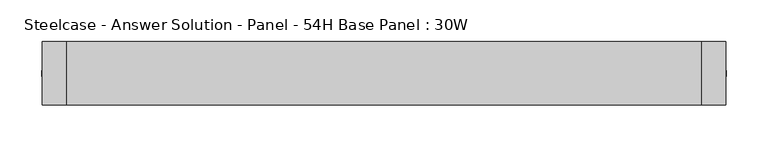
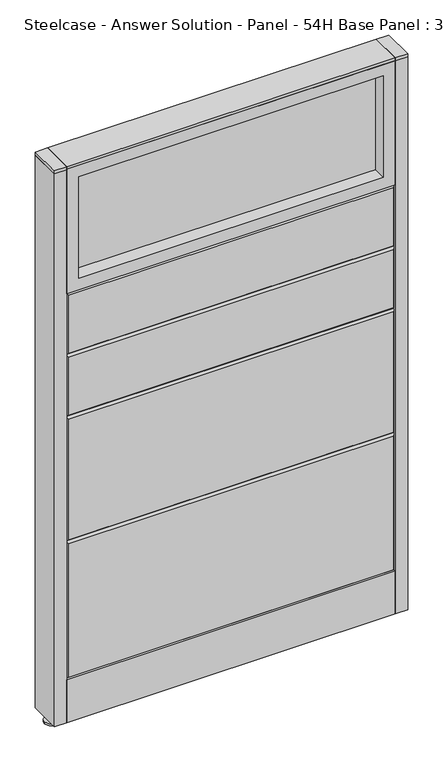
"""IFC4 building model written with IfcOpenShell, lengths in millimetres: furniture geometry, Steelcase - Answer Solution - Panel - 54H Base Panel : 30W."""

from ifc_helpers import new_model, si_unit, point, frame, frame_2d, origin, place, context, project, spatial, polyline, circle_curve, trimmed, segment, composite_curve, outline, extrude, faceted_brep, source, transform, mapped, element, save


def steelcase_answer_solution_panel_54h_base_panel_30w_df9601b4(model_context):
    return source(origin(), model_context, "Body", "SolidModel", [
        extrude(outline(composite_curve([segment(trimmed(circle_curve(frame_2d((395.224, 0.0320214)), 5.08), [point((400.304, 0.0320214))], [point((390.144, 0.0320214))], False, "CARTESIAN"), True, "CONTINUOUS"), segment(trimmed(circle_curve(frame_2d((395.224, 0.0320214)), 5.08), [point((390.144, 0.0320214))], [point((400.304, 0.0320214))], False, "CARTESIAN"), True, "CONTINUOUS")], self_intersect=False)), frame((0.0, 0.0, 5.0799671), z_axis=(0.0, 0.0, 1.0), x_axis=(1.0, 0.0, 0.0)), (0.0, 0.0, 1.0), 10.414),
        extrude(outline(composite_curve([segment(trimmed(circle_curve(frame_2d((395.224, 0.0320214)), 15.24), [point((410.464, 0.0320214))], [point((379.984, 0.0320214))], False, "CARTESIAN"), True, "CONTINUOUS"), segment(trimmed(circle_curve(frame_2d((395.224, 0.0320214)), 15.24), [point((379.984, 0.0320214))], [point((410.464, 0.0320214))], False, "CARTESIAN"), True, "CONTINUOUS")], self_intersect=False)), frame((0.0, 0.0, -3.29e-05), z_axis=(0.0, 0.0, 1.0), x_axis=(1.0, 0.0, 0.0)), (0.0, 0.0, 1.0), 5.08),
        extrude(outline(polyline([(409.575, 38.1320408), (409.575, -38.0679592), (381.0, -38.0679592), (381.0, 38.1320408), (409.575, 38.1320408)])), frame((0.0, 0.0, 1370.6348), z_axis=(0.0, 0.0, 1.0), x_axis=(1.0, 0.0, 0.0)), (0.0, 0.0, 1.0), 7.3151671),
        extrude(outline(polyline([(409.575, 38.1320408), (409.575, -38.0679592), (381.0, -38.0679592), (381.0, 38.1320408), (409.575, 38.1320408)])), frame((0.0, 0.0, 15.4939671), z_axis=(0.0, 0.0, 1.0), x_axis=(1.0, 0.0, 0.0)), (0.0, 0.0, 1.0), 1355.1408329),
        extrude(outline(composite_curve([segment(trimmed(circle_curve(frame_2d((-395.224, 0.0320214)), 5.08), [point((-400.304, 0.0320214))], [point((-390.144, 0.0320214))], False, "CARTESIAN"), True, "CONTINUOUS"), segment(trimmed(circle_curve(frame_2d((-395.224, 0.0320214)), 5.08), [point((-390.144, 0.0320214))], [point((-400.304, 0.0320214))], False, "CARTESIAN"), True, "CONTINUOUS")], self_intersect=False)), frame((0.0, 0.0, 5.0799671), z_axis=(0.0, 0.0, 1.0), x_axis=(1.0, 0.0, 0.0)), (0.0, 0.0, 1.0), 10.414),
        extrude(outline(composite_curve([segment(trimmed(circle_curve(frame_2d((-395.224, 0.0320214)), 15.24), [point((-410.464, 0.0320214))], [point((-379.984, 0.0320214))], False, "CARTESIAN"), True, "CONTINUOUS"), segment(trimmed(circle_curve(frame_2d((-395.224, 0.0320214)), 15.24), [point((-379.984, 0.0320214))], [point((-410.464, 0.0320214))], False, "CARTESIAN"), True, "CONTINUOUS")], self_intersect=False)), frame((0.0, 0.0, -3.29e-05), z_axis=(0.0, 0.0, 1.0), x_axis=(1.0, 0.0, 0.0)), (0.0, 0.0, 1.0), 5.08),
        extrude(outline(polyline([(-409.575, 38.1320408), (-381.0, 38.1320408), (-381.0, -38.0679592), (-409.575, -38.0679592), (-409.575, 38.1320408)])), frame((0.0, 0.0, 1370.6348), z_axis=(0.0, 0.0, 1.0), x_axis=(1.0, 0.0, 0.0)), (0.0, 0.0, 1.0), 7.3151671),
        extrude(outline(polyline([(-409.575, 38.1320408), (-381.0, 38.1320408), (-381.0, -38.0679592), (-409.575, -38.0679592), (-409.575, 38.1320408)])), frame((0.0, 0.0, 15.4939671), z_axis=(0.0, 0.0, 1.0), x_axis=(1.0, 0.0, 0.0)), (0.0, 0.0, 1.0), 1355.1408329),
        extrude(outline(polyline([(-353.06, 6.346049), (353.06, 6.346049), (353.06, -6.353951), (-353.06, -6.353951), (-353.06, 6.346049)])), frame((0.0, 0.0, 1094.74), z_axis=(0.0, 0.0, 1.0), x_axis=(1.0, 0.0, 0.0)), (0.0, 0.0, 1.0), 248.92),
        extrude(outline(polyline([(1371.6, -381.0), (1066.8, -381.0), (1066.8, 381.0), (1371.6, 381.0), (1371.6, -381.0)]), holes=[polyline([(1343.66, -353.06), (1343.66, 353.06), (1094.74, 353.06), (1094.74, -353.06), (1343.66, -353.06)])]), frame((0.0, -38.103951, 0.0), z_axis=(0.0, 1.0, 0.0), x_axis=(0.0, 0.0, 1.0)), (0.0, 0.0, 1.0), 76.2),
        faceted_brep([(-376.174, 38.1635011, 1061.974), (376.174, 38.1635011, 1061.974), (376.174, 38.1635011, 919.226), (-376.174, 38.1635011, 919.226), (-381.0, 33.3375011, 1066.8), (-381.0, 33.3375011, 914.4), (381.0, 33.3375011, 914.4), (381.0, 33.3375011, 1066.8)], [[[0, 1, 2, 3]], [[4, 5, 6, 7]], [[4, 7, 1, 0]], [[7, 6, 2, 1]], [[6, 5, 3, 2]], [[5, 4, 0, 3]]]),
        faceted_brep([(-376.174, 38.1635011, 909.574), (376.174, 38.1635011, 909.574), (376.174, 38.1635011, 766.826), (-376.174, 38.1635011, 766.826), (-381.0, 33.3375011, 914.4), (-381.0, 33.3375011, 762.0), (381.0, 33.3375011, 762.0), (381.0, 33.3375011, 914.4)], [[[0, 1, 2, 3]], [[4, 5, 6, 7]], [[4, 7, 1, 0]], [[7, 6, 2, 1]], [[6, 5, 3, 2]], [[5, 4, 0, 3]]]),
        faceted_brep([(-376.174, 38.1635011, 757.174), (376.174, 38.1635011, 757.174), (376.174, 38.1635011, 462.026), (-376.174, 38.1635011, 462.026), (-381.0, 33.3375011, 762.0), (-381.0, 33.3375011, 457.2), (381.0, 33.3375011, 457.2), (381.0, 33.3375011, 762.0)], [[[0, 1, 2, 3]], [[4, 5, 6, 7]], [[4, 7, 1, 0]], [[7, 6, 2, 1]], [[6, 5, 3, 2]], [[5, 4, 0, 3]]]),
        faceted_brep([(-376.174, 38.1635011, 452.374), (376.174, 38.1635011, 452.374), (376.174, 38.1635011, 125.476), (-376.174, 38.1635011, 125.476), (-381.0, 33.3375011, 457.2), (-381.0, 33.3375011, 120.65), (381.0, 33.3375011, 120.65), (381.0, 33.3375011, 457.2)], [[[0, 1, 2, 3]], [[4, 5, 6, 7]], [[4, 7, 1, 0]], [[7, 6, 2, 1]], [[6, 5, 3, 2]], [[5, 4, 0, 3]]]),
        extrude(outline(polyline([(353.06, -6.346049), (-353.06, -6.346049), (-353.06, 6.353951), (353.06, 6.353951), (353.06, -6.346049)])), frame((0.0, 0.0, 1094.74), z_axis=(0.0, 0.0, 1.0), x_axis=(1.0, 0.0, 0.0)), (0.0, 0.0, 1.0), 248.92),
        extrude(outline(polyline([(1371.6, 381.0), (1371.6, -381.0), (1066.8, -381.0), (1066.8, 381.0), (1371.6, 381.0)]), holes=[polyline([(1343.66, 353.06), (1094.74, 353.06), (1094.74, -353.06), (1343.66, -353.06), (1343.66, 353.06)])]), frame((0.0, -38.096049, 0.0), z_axis=(0.0, 1.0, 0.0), x_axis=(0.0, 0.0, 1.0)), (0.0, 0.0, 1.0), 76.2),
        faceted_brep([(376.174, -38.1635011, 1061.974), (-376.174, -38.1635011, 1061.974), (-376.174, -38.1635011, 919.226), (376.174, -38.1635011, 919.226), (381.0, -33.3375011, 1066.8), (381.0, -33.3375011, 914.4), (-381.0, -33.3375011, 914.4), (-381.0, -33.3375011, 1066.8)], [[[0, 1, 2, 3]], [[4, 5, 6, 7]], [[4, 7, 1, 0]], [[7, 6, 2, 1]], [[6, 5, 3, 2]], [[5, 4, 0, 3]]]),
        faceted_brep([(376.174, -38.1635011, 909.574), (-376.174, -38.1635011, 909.574), (-376.174, -38.1635011, 766.826), (376.174, -38.1635011, 766.826), (381.0, -33.3375011, 914.4), (381.0, -33.3375011, 762.0), (-381.0, -33.3375011, 762.0), (-381.0, -33.3375011, 914.4)], [[[0, 1, 2, 3]], [[4, 5, 6, 7]], [[4, 7, 1, 0]], [[7, 6, 2, 1]], [[6, 5, 3, 2]], [[5, 4, 0, 3]]]),
        faceted_brep([(376.174, -38.1635011, 757.174), (-376.174, -38.1635011, 757.174), (-376.174, -38.1635011, 462.026), (376.174, -38.1635011, 462.026), (381.0, -33.3375011, 762.0), (381.0, -33.3375011, 457.2), (-381.0, -33.3375011, 457.2), (-381.0, -33.3375011, 762.0)], [[[0, 1, 2, 3]], [[4, 5, 6, 7]], [[4, 7, 1, 0]], [[7, 6, 2, 1]], [[6, 5, 3, 2]], [[5, 4, 0, 3]]]),
        faceted_brep([(376.174, -38.1635011, 452.374), (-376.174, -38.1635011, 452.374), (-376.174, -38.1635011, 125.476), (376.174, -38.1635011, 125.476), (381.0, -33.3375011, 457.2), (381.0, -33.3375011, 120.65), (-381.0, -33.3375011, 120.65), (-381.0, -33.3375011, 457.2)], [[[0, 1, 2, 3]], [[4, 5, 6, 7]], [[4, 7, 1, 0]], [[7, 6, 2, 1]], [[6, 5, 3, 2]], [[5, 4, 0, 3]]]),
        extrude(outline(polyline([(381.0, 38.1000194), (381.0, -38.1000194), (-381.0, -38.1000194), (-381.0, 38.1000194), (381.0, 38.1000194)])), frame((0.0, 0.0, 1371.6), z_axis=(0.0, 0.0, 1.0), x_axis=(1.0, 0.0, 0.0)), (0.0, 0.0, 1.0), 6.35),
        extrude(outline(polyline([(25.4000011, 119.8575157), (25.4000011, 120.65), (38.1000194, 120.65), (38.1000194, 15.494), (37.3075215, 15.494), (37.3075215, 119.8575157), (25.4000011, 119.8575157)])), frame((-381.0, 0.0, 0.0), z_axis=(1.0, 0.0, 0.0), x_axis=(0.0, 1.0, 0.0)), (0.0, 0.0, 1.0), 762.0),
        extrude(outline(polyline([(-25.4000011, 119.8575157), (-37.3075215, 119.8575157), (-37.3075215, 15.494), (-38.1000194, 15.494), (-38.1000194, 120.65), (-25.4000011, 120.65), (-25.4000011, 119.8575157)])), frame((-381.0, 0.0, 0.0), z_axis=(1.0, 0.0, 0.0), x_axis=(0.0, 1.0, 0.0)), (0.0, 0.0, 1.0), 762.0),
    ])


if __name__ == "__main__":
    model = new_model("IFC4")
    model_context = context("Model", 3, world=origin())
    ifc_project = project(units=[si_unit("LENGTHUNIT", "METRE", prefix="MILLI")], contexts=[model_context])
    site = spatial("IfcSite", under=ifc_project)
    building = spatial("IfcBuilding", under=site)
    placement = place(None, origin())
    steelcase_answer_solution_panel_54h_base_panel_30w_shape = steelcase_answer_solution_panel_54h_base_panel_30w_df9601b4(model_context)
    element("IfcFurniture", 1, ObjectType="Steelcase - Answer Solution - Panel - 54H Base Panel : 30W", at=placement, inside=building, context=model_context, shape_type="MappedRepresentation", body=[
        mapped(steelcase_answer_solution_panel_54h_base_panel_30w_shape, transform((0.0, 0.0, 0.0), x_axis=(1.0, 0.0, 0.0), y_axis=(0.0, 1.0, 0.0), z_axis=(0.0, 0.0, 1.0))),
    ])
    save(model, "model.ifc")
